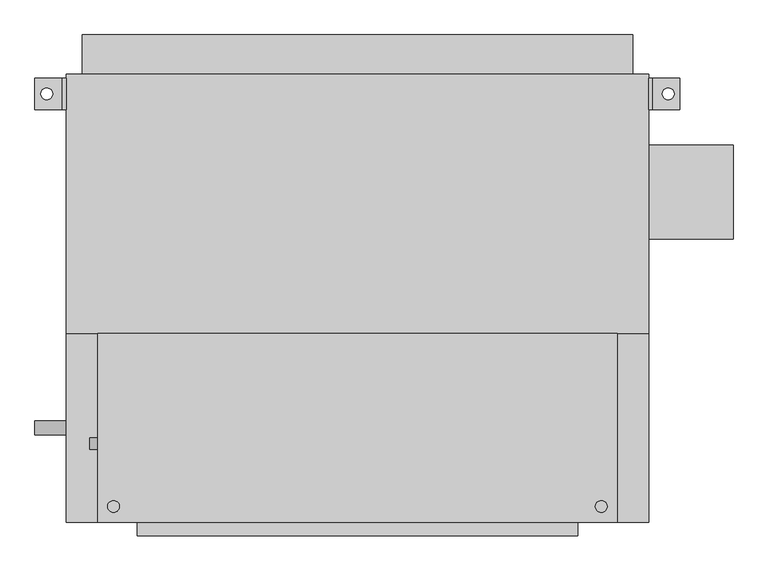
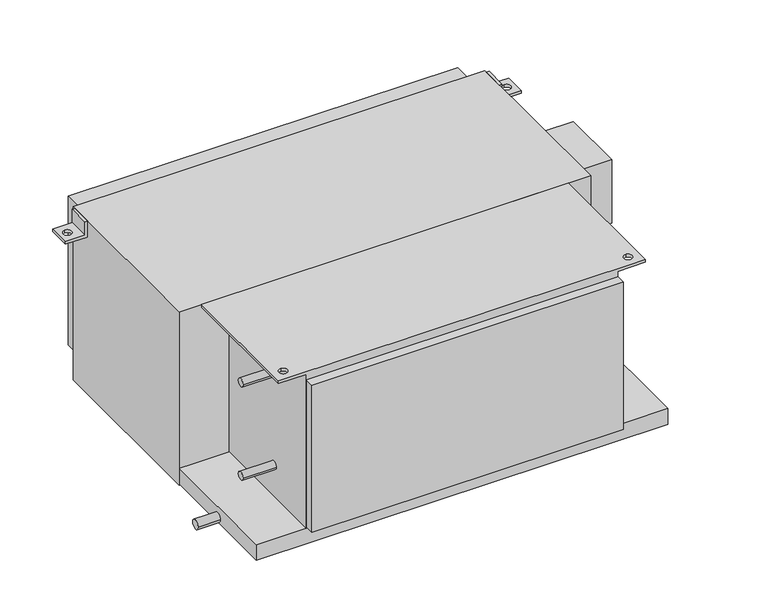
"""IFC4 building model written with IfcOpenShell, lengths in millimetres: proxy geometry, Concealed_High_Capacity_Horizontal_Fan_Coil_Unit_With_Plenum_-_42DCA_-_CARRIER_-_2-Pipe_Cool-EHeat_LH_2022 : Size 12 - 277v/60Hz/1Ph - 6 Row 9.0kW."""

from ifc_helpers import new_model, si_unit, point, frame, frame_2d, origin, place, context, project, spatial, polyline, circle_curve, trimmed, segment, composite_curve, outline, extrude, source, transform, mapped, element, save
from ifc_brep_helpers import plane_surface, revolved_surface, advanced_brep


def mechanical_equipment_4d0f3ce5(model_context):
    return source(origin(), model_context, "Body", "SolidModel", [
        advanced_brep(
        [(-317.5, 327.025, -38.1), (-368.3, 327.025, -38.1), (-368.3, 327.025, -31.75), (-323.85, 327.025, -31.75), (-323.85, 327.025, 0.0), (-317.5, 327.025, 0.0), (-317.5, 276.225, -38.1), (-317.5, 276.225, 0.0), (-323.85, 276.225, 0.0), (-323.85, 276.225, -31.75), (-368.3, 276.225, -31.75), (-368.3, 276.225, -38.1), (-349.25, 292.1, -38.1), (-349.25, 311.15, -38.1), (-349.25, 311.15, -31.75), (-349.25, 292.1, -31.75)],
        [
            (0, 1),
            (1, 2),
            (2, 3),
            (3, 4),
            (4, 5),
            (5, 0),
            (6, 7),
            (7, 8),
            (8, 9),
            (9, 10),
            (10, 11),
            (11, 6),
            (0, 6),
            (11, 1),
            (12, 13, circle_curve(frame((-349.25, 301.625, -38.1), z_axis=(0.0, 0.0, 1.0), x_axis=(0.0, -1.0, 0.0)), 9.525)),
            (13, 12, circle_curve(frame((-349.25, 301.625, -38.1), z_axis=(0.0, 0.0, 1.0), x_axis=(0.0, -1.0, 0.0)), 9.525)),
            (10, 2),
            (9, 3),
            (14, 15, circle_curve(frame((-349.25, 301.625, -31.75), z_axis=(0.0, 0.0, -1.0), x_axis=(0.0, -1.0, 0.0)), 9.525)),
            (15, 14, circle_curve(frame((-349.25, 301.625, -31.75), z_axis=(0.0, 0.0, -1.0), x_axis=(0.0, -1.0, 0.0)), 9.525)),
            (8, 4),
            (7, 5),
            (14, 13),
            (12, 15),
        ],
        [
            plane_surface(frame((-317.5, 327.025, -38.1), z_axis=(0.0, 1.0, 0.0), x_axis=(-1.0, 0.0, 0.0))),
            plane_surface(frame((-317.5, 276.225, -38.1), z_axis=(0.0, -1.0, 0.0), x_axis=(1.0, 0.0, 0.0))),
            plane_surface(frame((-317.5, 327.025, -38.1), z_axis=(0.0, 0.0, -1.0), x_axis=(0.0, -1.0, 0.0))),
            plane_surface(frame((-368.3, 327.025, -38.1), z_axis=(-1.0, 0.0, 0.0), x_axis=(0.0, -1.0, 0.0))),
            plane_surface(frame((-368.3, 327.025, -31.75), z_axis=(0.0, 0.0, 1.0), x_axis=(0.0, -1.0, 0.0))),
            plane_surface(frame((-323.85, 327.025, -31.75), z_axis=(-1.0, 0.0, 0.0), x_axis=(0.0, -1.0, 0.0))),
            plane_surface(frame((-323.85, 327.025, 0.0), z_axis=(0.0, 0.0, 1.0), x_axis=(0.0, -1.0, 0.0))),
            plane_surface(frame((-317.5, 327.025, 0.0), z_axis=(1.0, 0.0, 0.0), x_axis=(0.0, -1.0, 0.0))),
            revolved_surface(polyline([(-349.25, 292.1, -38.1), (-349.25, 292.1, -31.75)]), (-349.25, 301.625, -31.75), (0.0, 0.0, -1.0)),
        ],
        [
            (0, [[1, 2, 3, 4, 5, 6]]),
            (1, [[7, 8, 9, 10, 11, 12]]),
            (2, [[-1, 13, -12, 14], [15, 16]]),
            (3, [[-2, -14, -11, 17]]),
            (4, [[-3, -17, -10, 18], [19, 20]]),
            (5, [[-4, -18, -9, 21]]),
            (6, [[-5, -21, -8, 22]]),
            (7, [[-6, -22, -7, -13]]),
            (8, [[23, -15, 24, -19]]),
            (8, [[-23, -20, -24, -16]]),
        ],
    ),
        advanced_brep(
        [(622.3, 327.025, -38.1), (622.3, 327.025, 0.0), (628.65, 327.025, 0.0), (628.65, 327.025, -31.75), (673.1, 327.025, -31.75), (673.1, 327.025, -38.1), (622.3, 276.225, -38.1), (673.1, 276.225, -38.1), (673.1, 276.225, -31.75), (628.65, 276.225, -31.75), (628.65, 276.225, 0.0), (622.3, 276.225, 0.0), (654.05, 311.15, -31.75), (654.05, 292.1, -31.75), (654.05, 292.1, -38.1), (654.05, 311.15, -38.1)],
        [
            (0, 1),
            (1, 2),
            (2, 3),
            (3, 4),
            (4, 5),
            (5, 0),
            (6, 7),
            (7, 8),
            (8, 9),
            (9, 10),
            (10, 11),
            (11, 6),
            (0, 6),
            (11, 1),
            (10, 2),
            (9, 3),
            (8, 4),
            (12, 13, circle_curve(frame((654.05, 301.625, -31.75), z_axis=(0.0, 0.0, -1.0), x_axis=(0.0, -1.0, 0.0)), 9.525)),
            (13, 12, circle_curve(frame((654.05, 301.625, -31.75), z_axis=(0.0, 0.0, -1.0), x_axis=(0.0, -1.0, 0.0)), 9.525)),
            (7, 5),
            (14, 15, circle_curve(frame((654.05, 301.625, -38.1), z_axis=(0.0, 0.0, 1.0), x_axis=(0.0, -1.0, 0.0)), 9.525)),
            (15, 14, circle_curve(frame((654.05, 301.625, -38.1), z_axis=(0.0, 0.0, 1.0), x_axis=(0.0, -1.0, 0.0)), 9.525)),
            (12, 15),
            (14, 13),
        ],
        [
            plane_surface(frame((-317.5, 327.025, -38.1), z_axis=(0.0, 1.0, 0.0), x_axis=(-1.0, 0.0, 0.0))),
            plane_surface(frame((-317.5, 276.225, -38.1), z_axis=(0.0, -1.0, 0.0), x_axis=(1.0, 0.0, 0.0))),
            plane_surface(frame((622.3, 327.025, -38.1), z_axis=(-1.0, 0.0, 0.0), x_axis=(0.0, -1.0, 0.0))),
            plane_surface(frame((622.3, 327.025, 0.0), z_axis=(0.0, 0.0, 1.0), x_axis=(0.0, -1.0, 0.0))),
            plane_surface(frame((628.65, 327.025, 0.0), z_axis=(1.0, 0.0, 0.0), x_axis=(0.0, -1.0, 0.0))),
            plane_surface(frame((628.65, 327.025, -31.75), z_axis=(0.0, 0.0, 1.0), x_axis=(0.0, -1.0, 0.0))),
            plane_surface(frame((673.1, 327.025, -31.75), z_axis=(1.0, 0.0, 0.0), x_axis=(0.0, -1.0, 0.0))),
            plane_surface(frame((673.1, 327.025, -38.1), z_axis=(0.0, 0.0, -1.0), x_axis=(0.0, -1.0, 0.0))),
            revolved_surface(polyline([(654.05, 292.1, -38.1), (654.05, 292.1, -31.75)]), (654.05, 301.625, -31.75), (0.0, 0.0, -1.0)),
        ],
        [
            (0, [[1, 2, 3, 4, 5, 6]]),
            (1, [[7, 8, 9, 10, 11, 12]]),
            (2, [[-1, 13, -12, 14]]),
            (3, [[-2, -14, -11, 15]]),
            (4, [[-3, -15, -10, 16]]),
            (5, [[-4, -16, -9, 17], [18, 19]]),
            (6, [[-5, -17, -8, 20]]),
            (7, [[-6, -20, -7, -13], [21, 22]]),
            (8, [[23, -21, 24, -18]]),
            (8, [[-23, -19, -24, -22]]),
        ],
    ),
        advanced_brep(
        [(-266.7, -85.725, -6.35), (-203.2, -85.725, -6.35), (-203.2, -390.525, -6.35), (-266.7, -390.525, -6.35), (-241.3, -355.6, -6.35), (-241.3, -374.65, -6.35), (571.5, -85.725, -6.35), (571.5, -390.525, -6.35), (508.0, -390.525, -6.35), (508.0, -85.725, -6.35), (546.1, -355.6, -6.35), (546.1, -374.65, -6.35), (-266.7, -85.725, 0.0), (-266.7, -390.525, 0.0), (571.5, -390.525, 0.0), (571.5, -85.725, 0.0), (-241.3, -374.65, 0.0), (-241.3, -355.6, 0.0), (546.1, -374.65, 0.0), (546.1, -355.6, 0.0), (-203.2, -390.525, -377.825), (508.0, -390.525, -377.825), (508.0, -85.725, -377.825), (-203.2, -85.725, -377.825)],
        [
            (0, 1),
            (1, 2),
            (2, 3),
            (3, 0),
            (4, 5, circle_curve(frame((-241.3, -365.125, -6.35), z_axis=(0.0, 0.0, 1.0), x_axis=(0.0, 1.0, 0.0)), 9.525)),
            (5, 4, circle_curve(frame((-241.3, -365.125, -6.35), z_axis=(0.0, 0.0, 1.0), x_axis=(0.0, 1.0, 0.0)), 9.525)),
            (6, 7),
            (7, 8),
            (8, 9),
            (9, 6),
            (10, 11, circle_curve(frame((546.1, -365.125, -6.35), z_axis=(0.0, 0.0, 1.0), x_axis=(0.0, 1.0, 0.0)), 9.525)),
            (11, 10, circle_curve(frame((546.1, -365.125, -6.35), z_axis=(0.0, 0.0, 1.0), x_axis=(0.0, 1.0, 0.0)), 9.525)),
            (12, 13),
            (13, 14),
            (14, 15),
            (15, 12),
            (16, 17, circle_curve(frame((-241.3, -365.125, 0.0), z_axis=(0.0, 0.0, -1.0), x_axis=(0.0, 1.0, 0.0)), 9.525)),
            (17, 16, circle_curve(frame((-241.3, -365.125, 0.0), z_axis=(0.0, 0.0, -1.0), x_axis=(0.0, 1.0, 0.0)), 9.525)),
            (18, 19, circle_curve(frame((546.1, -365.125, 0.0), z_axis=(0.0, 0.0, -1.0), x_axis=(0.0, 1.0, 0.0)), 9.525)),
            (19, 18, circle_curve(frame((546.1, -365.125, 0.0), z_axis=(0.0, 0.0, -1.0), x_axis=(0.0, 1.0, 0.0)), 9.525)),
            (3, 13),
            (12, 0),
            (2, 20),
            (20, 21),
            (21, 8),
            (7, 14),
            (15, 6),
            (9, 22),
            (22, 23),
            (23, 1),
            (22, 21),
            (20, 23),
            (16, 5),
            (4, 17),
            (18, 11),
            (10, 19),
        ],
        [
            plane_surface(frame((-266.7, -85.725, -6.35), z_axis=(0.0, 0.0, -1.0), x_axis=(0.0, 1.0, 0.0))),
            plane_surface(frame((-266.7, -85.725, 0.0), z_axis=(0.0, 0.0, 1.0), x_axis=(0.0, -1.0, 0.0))),
            plane_surface(frame((-266.7, -85.725, 0.0), z_axis=(-1.0, 0.0, 0.0), x_axis=(0.0, 0.0, -1.0))),
            plane_surface(frame((-266.7, -390.525, 0.0), z_axis=(0.0, -1.0, 0.0), x_axis=(0.0, 0.0, -1.0))),
            plane_surface(frame((-203.2, -85.725, 0.0), z_axis=(0.0, 1.0, 0.0), x_axis=(0.0, 0.0, -1.0))),
            plane_surface(frame((571.5, -390.525, 0.0), z_axis=(1.0, 0.0, 0.0), x_axis=(0.0, 0.0, -1.0))),
            plane_surface(frame((-203.2, -85.725, -377.825), z_axis=(0.0, 0.0, -1.0), x_axis=(1.0, 0.0, 0.0))),
            plane_surface(frame((-203.2, -85.725, 0.0), z_axis=(-1.0, 0.0, 0.0), x_axis=(0.0, 0.0, -1.0))),
            plane_surface(frame((508.0, -390.525, 0.0), z_axis=(1.0, 0.0, 0.0), x_axis=(0.0, 0.0, -1.0))),
            revolved_surface(polyline([(-241.3, -355.6, -6.35), (-241.3, -355.6, 0.0)]), (-241.3, -365.125, 0.0), (0.0, 0.0, -1.0)),
            revolved_surface(polyline([(546.1, -355.6, -6.35), (546.1, -355.6, 0.0)]), (546.1, -365.125, 0.0), (0.0, 0.0, -1.0)),
        ],
        [
            (0, [[1, 2, 3, 4], [5, 6]]),
            (0, [[7, 8, 9, 10], [11, 12]]),
            (1, [[13, 14, 15, 16], [17, 18], [19, 20]]),
            (2, [[-4, 21, -13, 22]]),
            (3, [[-3, 23, 24, 25, -8, 26, -14, -21]]),
            (4, [[-1, -22, -16, 27, -10, 28, 29, 30]]),
            (5, [[-7, -27, -15, -26]]),
            (6, [[31, -24, 32, -29]]),
            (7, [[-32, -23, -2, -30]]),
            (8, [[-31, -28, -9, -25]]),
            (9, [[33, -5, 34, -17]]),
            (9, [[-33, -18, -34, -6]]),
            (10, [[35, -11, 36, -19]]),
            (10, [[-35, -20, -36, -12]]),
        ],
    ),
        extrude(outline(polyline([(-292.1, 396.875), (596.9, 396.875), (596.9, 333.375), (-292.1, 333.375), (-292.1, 396.875)])), frame((0.0, 0.0, -381.0), z_axis=(0.0, 0.0, 1.0), x_axis=(1.0, 0.0, 0.0)), (0.0, 0.0, 1.0), 358.775),
        extrude(outline(composite_curve([segment(trimmed(circle_curve(frame_2d((-263.525, -76.2)), 9.525), [point((-273.05, -76.2))], [point((-254.0, -76.2))], False, "CARTESIAN"), True, "CONTINUOUS"), segment(trimmed(circle_curve(frame_2d((-263.525, -76.2)), 9.525), [point((-254.0, -76.2))], [point((-273.05, -76.2))], False, "CARTESIAN"), True, "CONTINUOUS")], self_intersect=False)), frame((-279.4, 0.0, 0.0), z_axis=(1.0, 0.0, 0.0), x_axis=(0.0, 1.0, 0.0)), (0.0, 0.0, 1.0), 76.2),
        extrude(outline(composite_curve([segment(trimmed(circle_curve(frame_2d((-263.525, -301.625)), 9.525), [point((-273.05, -301.625))], [point((-254.0, -301.625))], False, "CARTESIAN"), True, "CONTINUOUS"), segment(trimmed(circle_curve(frame_2d((-263.525, -301.625)), 9.525), [point((-254.0, -301.625))], [point((-273.05, -301.625))], False, "CARTESIAN"), True, "CONTINUOUS")], self_intersect=False)), frame((-279.4, 0.0, 0.0), z_axis=(1.0, 0.0, 0.0), x_axis=(0.0, 1.0, 0.0)), (0.0, 0.0, 1.0), 76.2),
        extrude(outline(composite_curve([segment(trimmed(circle_curve(frame_2d((-238.125, -403.225)), 11.1125), [point((-249.2375, -403.225))], [point((-227.0125, -403.225))], False, "CARTESIAN"), True, "CONTINUOUS"), segment(trimmed(circle_curve(frame_2d((-238.125, -403.225)), 11.1125), [point((-227.0125, -403.225))], [point((-249.2375, -403.225))], False, "CARTESIAN"), True, "CONTINUOUS")], self_intersect=False)), frame((-368.3, 0.0, 0.0), z_axis=(1.0, 0.0, 0.0), x_axis=(0.0, 1.0, 0.0)), (0.0, 0.0, 1.0), 50.8),
        extrude(outline(polyline([(758.825, 219.075), (758.825, 66.675), (622.3, 66.675), (622.3, 219.075), (758.825, 219.075)])), frame((0.0, 0.0, -254.0), z_axis=(0.0, 0.0, 1.0), x_axis=(1.0, 0.0, 0.0)), (0.0, 0.0, 1.0), 152.4),
        extrude(outline(polyline([(508.0, -412.75), (-203.2, -412.75), (-203.2, -390.525), (508.0, -390.525), (508.0, -412.75)])), frame((0.0, 0.0, -374.65), z_axis=(0.0, 0.0, 1.0), x_axis=(1.0, 0.0, 0.0)), (0.0, 0.0, 1.0), 355.6),
        extrude(outline(polyline([(622.3, -85.725), (-317.5, -85.725), (-317.5, 333.375), (622.3, 333.375), (622.3, -85.725)])), frame((0.0, 0.0, -419.1), z_axis=(0.0, 0.0, 1.0), x_axis=(1.0, 0.0, 0.0)), (0.0, 0.0, 1.0), 419.1),
        extrude(outline(polyline([(622.3, -85.725), (622.3, -390.525), (-317.5, -390.525), (-317.5, -85.725), (622.3, -85.725)])), frame((0.0, 0.0, -415.925), z_axis=(0.0, 0.0, 1.0), x_axis=(1.0, 0.0, 0.0)), (0.0, 0.0, 1.0), 38.1),
    ])


if __name__ == "__main__":
    model = new_model("IFC4")
    model_context = context("Model", 3, world=origin())
    ifc_project = project(units=[si_unit("LENGTHUNIT", "METRE", prefix="MILLI")], contexts=[model_context])
    site = spatial("IfcSite", under=ifc_project)
    building = spatial("IfcBuilding", under=site)
    placement = place(None, origin())
    mechanical_equipment_shape = mechanical_equipment_4d0f3ce5(model_context)
    element("IfcBuildingElementProxy", 1, Name="Concealed_High_Capacity_Horizontal_Fan_Coil_Unit_With_Plenum_-_42DCA_-_CARRIER_-_2-Pipe_Cool-EHeat_LH_2022 : Size 12 - 277v/60Hz/1Ph - 6 Row 9.0kW", ObjectType="Concealed_High_Capacity_Horizontal_Fan_Coil_Unit_With_Plenum_-_42DCA_-_CARRIER_-_2-Pipe_Cool-EHeat_LH_2022 : Size 12 - 277v/60Hz/1Ph - 6 Row 9.0kW", at=placement, inside=building, context=model_context, shape_type="MappedRepresentation", body=[
        mapped(mechanical_equipment_shape, transform((0.0, 0.0, 0.0), x_axis=(1.0, 0.0, 0.0), y_axis=(0.0, 1.0, 0.0), z_axis=(0.0, 0.0, 1.0))),
    ])
    save(model, "model.ifc")
